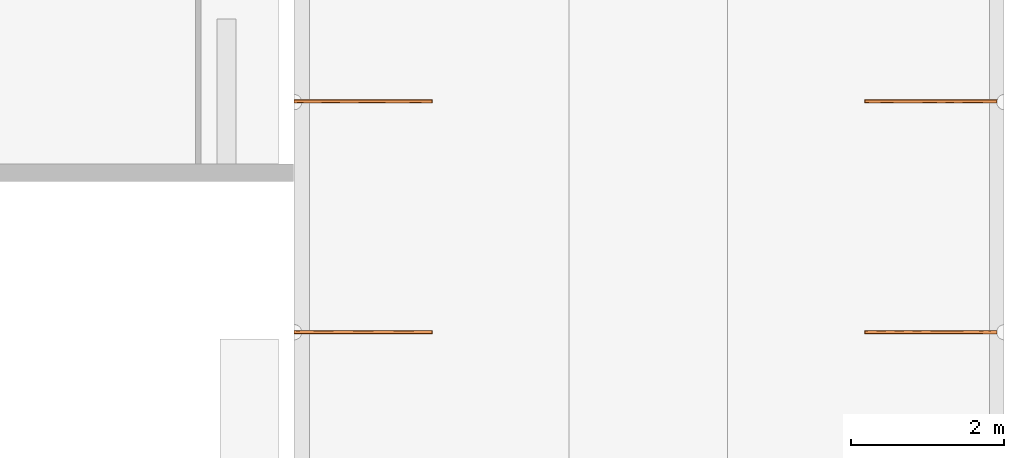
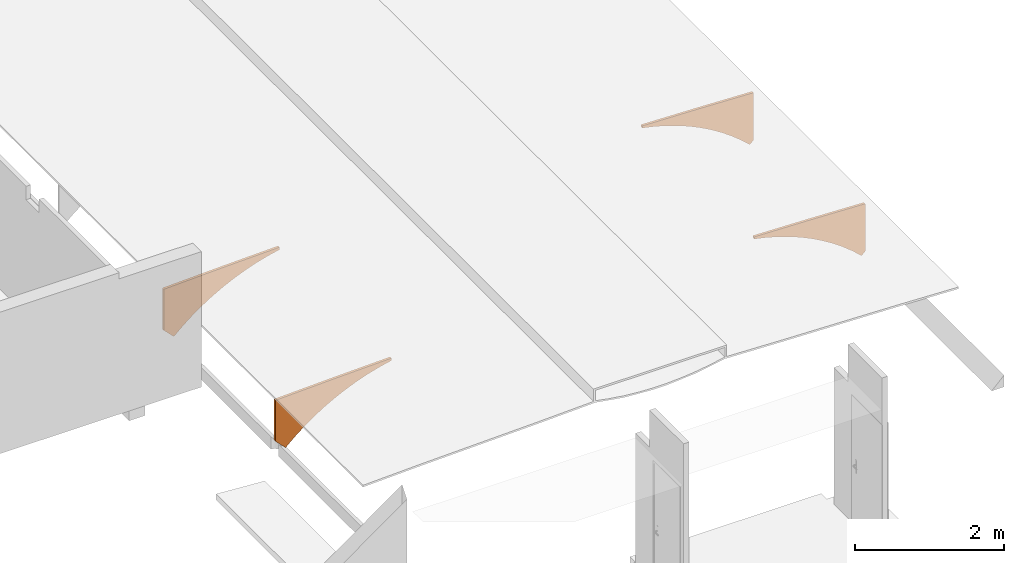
# One storey, part 29 of 32: 2 proxies.
"""IFC4 building model written with IfcOpenShell, lengths in metres."""

import ifcopenshell
import ifcopenshell.guid

model = None  # the IFC model being written
_history = None  # IfcOwnerHistory: only IFC2X3 demands one
_inside = {}  # id of a spatial element -> (the spatial element, [elements in it])
_under = {}  # id of a project, library or spatial element -> (it, [spatial elements below it])
_declared = {}  # id of a project -> (the project, [libraries it declares])
_typed = {}  # id of a type object -> (the type object, [elements of that type])
_made_of = {}  # id of a material, layer set ... -> (it, [elements and type objects made of it])


def new_model(schema):
    """Start an empty IFC model of exactly this schema.

    Asked for "IFC4X3", IfcOpenShell would pick the latest addendum, in which some entities
    have other attributes; the version numbers below select the first issue.
    IFC2X3 requires an IfcOwnerHistory on every rooted entity: one is made here for all.
    """
    global model, _history
    if schema == "IFC4X3":
        model = ifcopenshell.file(schema_version=(4, 3, 0, 0))
    else:
        model = ifcopenshell.file(schema=schema)
    _inside.clear()
    _under.clear()
    _declared.clear()
    _typed.clear()
    _made_of.clear()
    _history = None
    if model.schema == "IFC2X3":
        org = make("IfcOrganization", Name="unknown")
        user = make(
            "IfcPersonAndOrganization",
            ThePerson=make("IfcPerson", FamilyName="unknown"),
            TheOrganization=org,
        )
        app = make(
            "IfcApplication",
            ApplicationDeveloper=org,
            Version="unknown",
            ApplicationFullName="unknown",
            ApplicationIdentifier="unknown",
        )
        _history = make(
            "IfcOwnerHistory",
            OwningUser=user,
            OwningApplication=app,
            ChangeAction="ADDED",
            CreationDate=0,
        )
    return model


def make(cls, **values):
    """One entity of the class cls with the attributes given. An attribute that is None is left unset."""
    return model.create_entity(
        cls, **{name: value for name, value in values.items() if value is not None}
    )


def entity(cls, *values):
    """Any entity or typed value of the class cls, its attributes in the order of the schema. None: left unset."""
    e = model.create_entity(cls)
    for i, value in enumerate(values):
        if value is not None:
            e[i] = value
    return e


def rooted(cls, **values):
    """An entity with a GlobalId (a new one), such as an element, a storey or a relation."""
    return make(cls, GlobalId=ifcopenshell.guid.new(), OwnerHistory=_history, **values)


def si_unit(unit_type, name, prefix=None):
    """IfcSIUnit, for example si_unit("LENGTHUNIT", "METRE", prefix="MILLI")."""
    return make("IfcSIUnit", UnitType=unit_type, Prefix=prefix, Name=name)


def converted_unit(unit_type, name, factor, base, dimensions=None, offset=None):
    """IfcConversionBasedUnit, such as the inch: factor (a typed value) times the base unit."""
    return make(
        "IfcConversionBasedUnit"
        if offset is None
        else "IfcConversionBasedUnitWithOffset",
        ConversionOffset=offset,
        Dimensions=None
        if dimensions is None
        else entity("IfcDimensionalExponents", *dimensions),
        UnitType=unit_type,
        Name=name,
        ConversionFactor=make(
            "IfcMeasureWithUnit", ValueComponent=factor, UnitComponent=base
        ),
    )


def derived_unit(unit_type, elements):
    """IfcDerivedUnit: a product of units, each with its exponent."""
    return make(
        "IfcDerivedUnit",
        Elements=[
            make("IfcDerivedUnitElement", Unit=unit, Exponent=power)
            for unit, power in elements
        ],
        UnitType=unit_type,
    )


def assignment(units):
    """IfcUnitAssignment: the units of a project."""
    return None if units is None else make("IfcUnitAssignment", Units=units)


def point(xyz):
    """IfcCartesianPoint."""
    return None if xyz is None else make("IfcCartesianPoint", Coordinates=xyz)


def direction(xyz):
    """IfcDirection."""
    return None if xyz is None else make("IfcDirection", DirectionRatios=xyz)


def frame(location, z_axis=None, x_axis=None):
    """IfcAxis2Placement3D, a coordinate frame: its origin and axes. An axis left out is left unset."""
    return make(
        "IfcAxis2Placement3D",
        Location=point(location),
        Axis=direction(z_axis),
        RefDirection=direction(x_axis),
    )


def origin():
    """The frame at (0, 0, 0) with its axes left unset."""
    return frame((0.0, 0.0, 0.0))


def place(relative_to, where):
    """IfcLocalPlacement: puts the frame where relative to a parent placement (None: the world)."""
    return make(
        "IfcLocalPlacement", PlacementRelTo=relative_to, RelativePlacement=where
    )


def context(
    kind, dimensions, precision=None, world=None, true_north=None, identifier=None
):
    """IfcGeometricRepresentationContext, for example the 3D "Model" context."""
    return make(
        "IfcGeometricRepresentationContext",
        ContextIdentifier=identifier,
        ContextType=kind,
        CoordinateSpaceDimension=dimensions,
        Precision=precision,
        WorldCoordinateSystem=world,
        TrueNorth=true_north,
    )


def subcontext(parent, identifier, kind, view, scale=None):
    """IfcGeometricRepresentationSubContext, for example "Body" below "Model"."""
    return make(
        "IfcGeometricRepresentationSubContext",
        ContextIdentifier=identifier,
        ContextType=kind,
        ParentContext=parent,
        TargetScale=scale,
        TargetView=view,
    )


def project(units=None, contexts=None):
    """IfcProject with its units and contexts."""
    return rooted(
        "IfcProject",
        Name="project",
        RepresentationContexts=contexts,
        UnitsInContext=assignment(units),
    )


def spatial(cls, under=None, at=None, **own):
    """A site, building, storey or space (cls), placed at a placement, below another one or the project."""
    s = rooted(cls, ObjectPlacement=at, **own)
    if under is not None:
        _under.setdefault(under.id(), (under, []))[1].append(s)
    return s


def point_list(points):
    """IfcCartesianPointList2D or 3D."""
    cls = (
        "IfcCartesianPointList2D" if len(points[0]) == 2 else "IfcCartesianPointList3D"
    )
    return make(cls, CoordList=points)


def polygons(points, faces, closed=None, point_numbers=None):
    """IfcPolygonalFaceSet: a face is its outer loop, then its inner loops; points numbered from 1."""
    made = []
    for loops in faces:
        if len(loops) == 1:
            made.append(make("IfcIndexedPolygonalFace", CoordIndex=loops[0]))
        else:
            made.append(
                make(
                    "IfcIndexedPolygonalFaceWithVoids",
                    CoordIndex=loops[0],
                    InnerCoordIndices=loops[1:],
                )
            )
    return make(
        "IfcPolygonalFaceSet",
        Coordinates=point_list(points),
        Closed=closed,
        Faces=made,
        PnIndex=point_numbers,
    )


def shape(context_of_items, identifier, shape_type, items):
    """IfcShapeRepresentation: the items that make up one representation, for example the "Body"."""
    return make(
        "IfcShapeRepresentation",
        ContextOfItems=context_of_items,
        RepresentationIdentifier=identifier,
        RepresentationType=shape_type,
        Items=items,
    )


def source(mapping_origin, context_of_items, identifier, shape_type, items):
    """IfcRepresentationMap: a shape defined once, which mapped items show again and again."""
    return make(
        "IfcRepresentationMap",
        MappingOrigin=mapping_origin,
        MappedRepresentation=shape(context_of_items, identifier, shape_type, items),
    )


def transform(
    local_origin,
    x_axis=None,
    y_axis=None,
    z_axis=None,
    scale=None,
    scale2=None,
    scale3=None,
    uniform=True,
):
    """IfcCartesianTransformationOperator3D, or its non-uniform kind. x_axis, y_axis, z_axis: its Axis1, 2, 3."""
    if uniform:
        return make(
            "IfcCartesianTransformationOperator3D",
            Axis1=direction(x_axis),
            Axis2=direction(y_axis),
            LocalOrigin=point(local_origin),
            Scale=scale,
            Axis3=direction(z_axis),
        )
    return make(
        "IfcCartesianTransformationOperator3DnonUniform",
        Axis1=direction(x_axis),
        Axis2=direction(y_axis),
        LocalOrigin=point(local_origin),
        Scale=scale,
        Axis3=direction(z_axis),
        Scale2=scale2,
        Scale3=scale3,
    )


def mapped(mapping_source, mapping_target):
    """IfcMappedItem: shows the shape of a source again, moved by a transform."""
    return make(
        "IfcMappedItem", MappingSource=mapping_source, MappingTarget=mapping_target
    )


def material(Name=None, Category=None):
    """IfcMaterial."""
    return make("IfcMaterial", Name=Name, Category=Category)


def made_of(thing, what):
    """Note that an element or type object is made of a material, layer set ...; save() writes the relation."""
    if what is not None:
        _made_of.setdefault(what.id(), (what, []))[1].append(thing)
    return thing


def type_object(cls, material=None, **own):
    """A type object (cls), such as IfcWallType, which elements share."""
    return made_of(rooted(cls, **own), material)


def type_shapes(of_type, sources):
    """Give a type object the sources (RepresentationMaps) that its elements show as mapped items."""
    of_type.RepresentationMaps = sources


def element(
    cls,
    number,
    at=None,
    inside=None,
    cuts=None,
    type_object=None,
    material=None,
    context=None,
    identifier="Body",
    shape_type=None,
    held_by="IfcProductDefinitionShape",
    body=None,
    shapes=None,
    **own,
):
    """One element of the class cls, such as IfcWall. Its Tag is "e" and its number.

    at: its placement. inside: the storey or other place that contains it. cuts: it is an
    opening in that element (IfcRelVoidsElement). A single representation is given by context,
    identifier, shape_type and body (its items); several are given by shapes. held_by: the class
    of the entity that holds the representations. save() writes the other relations.
    """
    e = rooted(cls, Tag="e%d" % number, ObjectPlacement=at, **own)
    if body is not None:
        shapes = [shape(context, identifier, shape_type, body)]
    if shapes is not None:
        e.Representation = make(held_by, Representations=shapes)
    if inside is not None:
        _inside.setdefault(inside.id(), (inside, []))[1].append(e)
    if cuts is not None:
        rooted(
            "IfcRelVoidsElement", RelatingBuildingElement=cuts, RelatedOpeningElement=e
        )
    if type_object is not None:
        _typed.setdefault(type_object.id(), (type_object, []))[1].append(e)
    return made_of(e, material)


def aggregate(whole, parts):
    """IfcRelAggregates: a whole, such as a stair, and the parts it consists of."""
    return rooted("IfcRelAggregates", RelatingObject=whole, RelatedObjects=parts)


def save(model, path):
    """Write the relations noted so far, then the file.

    IfcRelAggregates (storeys below a building ...), IfcRelContainedInSpatialStructure (elements
    in a storey), IfcRelDefinesByType, IfcRelAssociatesMaterial and IfcRelDeclares: one each for
    every whole, place, type object, material and project.
    """
    for whole, parts in _under.values():
        aggregate(whole, parts)
    for where, things in _inside.values():
        rooted(
            "IfcRelContainedInSpatialStructure",
            RelatedElements=things,
            RelatingStructure=where,
        )
    for kind, things in _typed.values():
        rooted("IfcRelDefinesByType", RelatedObjects=things, RelatingType=kind)
    for what, things in _made_of.values():
        rooted("IfcRelAssociatesMaterial", RelatedObjects=things, RelatingMaterial=what)
    for by, libraries in _declared.values():
        rooted("IfcRelDeclares", RelatingContext=by, RelatedDefinitions=libraries)
    model.write(path)


model = new_model("IFC4")

# Units and contexts
model_context = context("Model", 3, precision=1e-05, world=origin(), true_north=direction((6.12303176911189e-17, 1.0)))
body_context = subcontext(model_context, "Body", "Model", "MODEL_VIEW")
ifc_project = project(units=[si_unit("LENGTHUNIT", "METRE"), si_unit("AREAUNIT", "SQUARE_METRE"), si_unit("VOLUMEUNIT", "CUBIC_METRE"), converted_unit("PLANEANGLEUNIT", "DEGREE", entity("IfcRatioMeasure", 0.0174532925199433), si_unit("PLANEANGLEUNIT", "RADIAN"), dimensions=[0, 0, 0, 0, 0, 0, 0]), si_unit("MASSUNIT", "GRAM", prefix="KILO"), derived_unit("MASSDENSITYUNIT", [(si_unit("MASSUNIT", "GRAM", prefix="KILO"), 1), (si_unit("LENGTHUNIT", "METRE"), -3)]), derived_unit("MOMENTOFINERTIAUNIT", [(si_unit("LENGTHUNIT", "METRE"), 4)]), si_unit("TIMEUNIT", "SECOND"), si_unit("FREQUENCYUNIT", "HERTZ"), si_unit("THERMODYNAMICTEMPERATUREUNIT", "DEGREE_CELSIUS"), derived_unit("THERMALTRANSMITTANCEUNIT", [(si_unit("MASSUNIT", "GRAM", prefix="KILO"), 1), (si_unit("THERMODYNAMICTEMPERATUREUNIT", "KELVIN"), -1), (si_unit("TIMEUNIT", "SECOND"), -3)]), derived_unit("VOLUMETRICFLOWRATEUNIT", [(si_unit("LENGTHUNIT", "METRE"), 3), (si_unit("TIMEUNIT", "SECOND"), -1)]), si_unit("ELECTRICCURRENTUNIT", "AMPERE"), si_unit("ELECTRICVOLTAGEUNIT", "VOLT"), si_unit("POWERUNIT", "WATT"), si_unit("FORCEUNIT", "NEWTON", prefix="KILO"), si_unit("ILLUMINANCEUNIT", "LUX"), si_unit("LUMINOUSFLUXUNIT", "LUMEN"), si_unit("LUMINOUSINTENSITYUNIT", "CANDELA"), derived_unit("USERDEFINED", [(si_unit("MASSUNIT", "GRAM", prefix="KILO"), -1), (si_unit("LENGTHUNIT", "METRE"), -2), (si_unit("TIMEUNIT", "SECOND"), 3), (si_unit("LUMINOUSFLUXUNIT", "LUMEN"), 1)]), derived_unit("LINEARVELOCITYUNIT", [(si_unit("LENGTHUNIT", "METRE"), 1), (si_unit("TIMEUNIT", "SECOND"), -1)]), si_unit("PRESSUREUNIT", "PASCAL"), derived_unit("USERDEFINED", [(si_unit("LENGTHUNIT", "METRE"), -2), (si_unit("MASSUNIT", "GRAM", prefix="KILO"), 1), (si_unit("TIMEUNIT", "SECOND"), -2)]), derived_unit("LINEARFORCEUNIT", [(si_unit("MASSUNIT", "GRAM", prefix="KILO"), 1), (si_unit("LENGTHUNIT", "METRE"), 1), (si_unit("TIMEUNIT", "SECOND"), -2), (si_unit("LENGTHUNIT", "METRE"), -1)]), derived_unit("PLANARFORCEUNIT", [(si_unit("MASSUNIT", "GRAM", prefix="KILO"), 1), (si_unit("LENGTHUNIT", "METRE"), 1), (si_unit("TIMEUNIT", "SECOND"), -2), (si_unit("LENGTHUNIT", "METRE"), -2)])], contexts=[model_context])

# Site, building, storey
site_placement = place(None, origin())
site = spatial("IfcSite", under=ifc_project, at=site_placement, Name="Default", CompositionType="ELEMENT")
building_placement = place(site_placement, origin())
building = spatial("IfcBuilding", under=site, at=building_placement, Name="HOTEL CONSULAIRE BOULOGNE SUR MER", CompositionType="ELEMENT")
storey_placement = place(building_placement, frame((0.0, 0.0, -2.70343668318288)))
storey = spatial("IfcBuildingStorey", under=building, at=storey_placement, Name="SS1", CompositionType="ELEMENT", Elevation=-2.70343668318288)

# Proxies
ifc_material = material(Name="peinture rouge")
building_element_proxy_type_1 = type_object("IfcBuildingElementProxyType", Name="Décoration plafond:Décoration plafond", PredefinedType="NOTDEFINED", material=ifc_material)
shared_shape_1 = source(origin(), body_context, "Body", "Tessellation", [
    polygons([(1.79902536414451, 0.00159527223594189, 0.894584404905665), (0.9498955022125, 0.00159527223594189, 0.8688668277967), (0.100998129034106, 0.00159527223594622, 0.836434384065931), (0.0512957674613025, 0.00159527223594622, 0.834327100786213), (0.00159527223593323, 0.00159527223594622, 0.832196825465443), (0.00159527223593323, 0.00159527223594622, 0.1571968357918), (0.100996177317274, 0.00159527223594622, 0.0577959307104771), (0.157196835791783, 0.00159527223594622, 0.0015952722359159), (0.296419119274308, 0.00159527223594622, 0.127213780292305), (0.442521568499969, 0.00159527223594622, 0.244759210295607), (0.595036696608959, 0.00159527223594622, 0.353855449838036), (0.753476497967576, 0.00159527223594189, 0.454153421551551), (0.917334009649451, 0.00159527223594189, 0.545332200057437), (1.08608493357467, 0.00159527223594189, 0.627100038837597), (1.25918931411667, 0.00159527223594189, 0.69919530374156), (1.43609326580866, 0.00159527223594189, 0.761387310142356), (1.61623074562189, 0.00159527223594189, 0.813477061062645), (1.79902536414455, 0.00159527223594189, 0.855297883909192), (1.79902536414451, 0.0401348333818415, 0.894584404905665), (0.948251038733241, 0.0401348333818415, 0.868810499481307), (0.0977082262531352, 0.0401348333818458, 0.836295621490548), (0.0496518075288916, 0.0401348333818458, 0.834257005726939), (0.00159527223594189, 0.0401348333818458, 0.832196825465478), (1.44157854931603, 0.00159527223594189, 0.883758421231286), (1.37363820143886, 0.0401348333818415, 0.881697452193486), (1.16094462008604, 0.0401348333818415, 0.875253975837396), (0.525445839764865, 0.00159527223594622, 0.852650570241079), (0.522979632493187, 0.0401348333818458, 0.852553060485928), (0.310343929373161, 0.0401348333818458, 0.844424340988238), (1.19573702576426, 0.00159527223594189, 0.876312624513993), (0.735615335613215, 0.0401348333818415, 0.860681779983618), (0.737670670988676, 0.00159527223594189, 0.860758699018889), (1.62030195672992, 0.00159527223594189, 0.889171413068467), (1.58633178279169, 0.0401348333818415, 0.888140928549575), (0.313221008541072, 0.00159527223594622, 0.844542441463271), (0.00159527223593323, 0.0401348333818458, 0.1571968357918), (0.0977082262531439, 0.0401348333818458, 0.0610838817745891), (0.157196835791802, 0.0401348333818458, 0.00159527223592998), (0.296419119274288, 0.0401348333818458, 0.127213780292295), (0.442521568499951, 0.0401348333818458, 0.244759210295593), (0.595036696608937, 0.0401348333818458, 0.353855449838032), (0.753476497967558, 0.0401348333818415, 0.454153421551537), (0.917334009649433, 0.0401348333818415, 0.545332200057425), (1.08608493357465, 0.0401348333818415, 0.627100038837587), (1.25918931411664, 0.0401348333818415, 0.699195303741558), (1.43609326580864, 0.0401348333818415, 0.761387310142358), (1.61623074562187, 0.0401348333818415, 0.813477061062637), (1.79902536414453, 0.0401348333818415, 0.855297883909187)], [[[3, 4, 5, 6, 7, 8, 9, 10, 11, 12, 13, 14, 15, 16, 17, 18, 1, 33, 24, 30, 2, 32, 27, 35]], [[2, 26, 20]], [[20, 31, 32]], [[33, 19, 34]], [[27, 28, 35]], [[26, 2, 30]], [[24, 34, 25]], [[31, 27, 32]], [[34, 24, 33]], [[22, 23, 5]], [[21, 3, 29]], [[22, 4, 21]], [[4, 22, 5]], [[28, 29, 35]], [[21, 4, 3]], [[20, 32, 2]], [[27, 31, 28]], [[24, 25, 30]], [[30, 25, 26]], [[33, 1, 19]], [[29, 3, 35]], [[6, 5, 23, 36]], [[7, 6, 36, 37, 38, 8]], [[9, 8, 38, 39]], [[11, 10, 40, 41]], [[40, 10, 9, 39]], [[12, 11, 41, 42]], [[42, 43, 13, 12]], [[15, 14, 44, 45]], [[17, 16, 46, 47]], [[46, 16, 15, 45]], [[18, 17, 47, 48]], [[13, 43, 44, 14]], [[1, 18, 48, 19]], [[19, 48, 47, 46, 45, 44, 43, 42, 41, 40, 39, 38, 37, 36, 23, 22, 21, 29, 28, 31, 20, 26, 25, 34]]], closed=True),
    polygons([(9.10471567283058, 0.0401348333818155, 0.0194132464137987), (8.96355981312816, 0.0401348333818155, 0.146678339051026), (8.81534259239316, 0.0401348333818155, 0.265644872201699), (8.66055119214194, 0.0401348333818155, 0.37592180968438), (8.49969440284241, 0.0401348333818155, 0.477146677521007), (8.33330095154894, 0.0401348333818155, 0.568986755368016), (8.16191776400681, 0.0401348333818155, 0.651140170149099), (7.98610816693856, 0.0401348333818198, 0.723336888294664), (7.80645003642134, 0.0401348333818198, 0.785339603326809), (7.6235338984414, 0.0401348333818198, 0.836944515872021), (7.43796098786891, 0.0401348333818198, 0.877982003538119), (7.43796098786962, 0.0401348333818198, 0.913055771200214), (8.30114615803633, 0.0401348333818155, 0.88705653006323), (9.16409385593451, 0.0401348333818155, 0.854118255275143), (9.16409385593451, 0.0401348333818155, 0.0787914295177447), (7.4379609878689, 0.00159527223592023, 0.877982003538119), (7.43796098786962, 0.00159527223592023, 0.913055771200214), (9.10471567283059, 0.0015952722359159, 0.0194132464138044), (8.96355981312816, 0.0015952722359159, 0.146678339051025), (8.81534259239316, 0.0015952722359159, 0.265644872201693), (8.66055119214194, 0.0015952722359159, 0.37592180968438), (8.49969440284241, 0.0015952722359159, 0.477146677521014), (8.33330095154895, 0.0015952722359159, 0.568986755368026), (8.16191776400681, 0.0015952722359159, 0.6511401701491), (7.98610816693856, 0.00159527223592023, 0.723336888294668), (7.80645003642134, 0.00159527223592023, 0.785339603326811), (7.6235338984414, 0.00159527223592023, 0.83694451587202), (9.16118333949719, 0.0264660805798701, 0.0758809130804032), (9.16020680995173, 0.0125250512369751, 0.0749043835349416), (9.16035669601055, 0.00705195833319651, 0.0750542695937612), (9.16080590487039, 0.0015952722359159, 0.0755034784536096), (8.29950168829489, 0.0015952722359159, 0.887112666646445), (9.16080590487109, 0.00159527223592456, 0.85425694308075), (9.16035669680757, 0.00705194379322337, 0.854275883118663), (9.16020680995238, 0.0125250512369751, 0.85428220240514), (9.16118211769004, 0.0264573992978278, 0.854241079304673), (8.80674338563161, 0.0401348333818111, 0.867758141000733), (8.73015379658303, 0.00159527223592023, 0.870684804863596), (8.98213051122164, 0.00159527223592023, 0.861072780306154), (8.98541862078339, 0.0401348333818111, 0.860938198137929), (7.7954096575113, 0.00159527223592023, 0.902292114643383), (7.8695535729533, 0.0401348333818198, 0.900056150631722), (7.65375728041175, 0.0401348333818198, 0.906555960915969), (8.55394477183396, 0.0401348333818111, 0.877407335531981), (8.51482774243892, 0.00159527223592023, 0.878898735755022), (8.08534986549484, 0.0401348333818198, 0.893556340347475), (8.04745567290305, 0.00159527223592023, 0.894702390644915), (7.61668532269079, 0.00159527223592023, 0.907673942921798), (9.16409385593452, 0.0401348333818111, 0.504947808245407), (9.16020680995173, 0.0125250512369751, 0.464593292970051), (9.16020680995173, 0.0125250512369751, 0.679696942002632), (9.16020680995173, 0.0125250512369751, 0.249489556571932), (9.16409385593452, 0.0401348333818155, 0.291869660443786), (9.16409385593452, 0.0401348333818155, 0.1660841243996), (9.16409385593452, 0.0401348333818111, 0.679533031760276), (9.16136501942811, 0.0277007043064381, 0.228976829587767), (9.16020680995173, 0.0125250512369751, 0.357041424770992), (9.16409385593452, 0.0401348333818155, 0.398408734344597), (9.16132051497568, 0.0274079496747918, 0.345139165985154), (9.16020680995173, 0.0125250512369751, 0.57214516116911), (9.16118247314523, 0.0264599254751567, 0.625921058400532), (9.16113299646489, 0.0261036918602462, 0.740080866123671), (9.16105441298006, 0.0255174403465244, 0.518369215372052), (9.16080590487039, 0.0015952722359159, 0.50508649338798), (9.16020680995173, 0.0125250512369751, 0.659437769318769), (9.16020680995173, 0.0125250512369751, 0.562015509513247), (9.16080590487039, 0.0015952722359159, 0.290294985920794), (9.16080590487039, 0.0015952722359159, 0.39769069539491), (9.16080590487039, 0.0015952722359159, 0.679671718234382), (9.16080590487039, 0.0015952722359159, 0.451388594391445), (9.16080590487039, 0.0015952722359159, 0.182899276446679), (9.16020680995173, 0.0125250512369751, 0.303265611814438), (9.16080590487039, 0.0015952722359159, 0.592379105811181), (9.16020680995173, 0.0125250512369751, 0.162197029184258), (9.16020680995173, 0.0125250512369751, 0.756860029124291), (9.16080590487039, 0.0015952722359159, 0.766964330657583), (9.16080590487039, 0.0015952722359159, 0.810610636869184), (9.16080590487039, 0.0015952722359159, 0.119149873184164), (9.16020680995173, 0.0125250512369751, 0.810635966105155), (9.16020680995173, 0.0125250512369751, 0.1185507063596), (9.16035664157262, 0.00705295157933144, 0.788787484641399), (9.16035542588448, 0.00707517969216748, 0.140373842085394), (9.16020680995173, 0.0125250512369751, 0.410817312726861), (9.16080590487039, 0.0015952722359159, 0.343992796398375), (9.16037232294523, 0.00677394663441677, 0.746632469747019), (9.16020680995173, 0.0125250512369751, 0.70814889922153), (9.16080590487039, 0.0015952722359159, 0.723318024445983), (9.16037877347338, 0.00666304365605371, 0.701494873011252), (9.16037624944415, 0.00670618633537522, 0.660064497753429), (9.16020680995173, 0.0125250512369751, 0.610726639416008), (9.16080590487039, 0.00159527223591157, 0.636025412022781), (9.16038047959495, 0.0066340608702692, 0.61420226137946), (9.16037257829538, 0.00676951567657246, 0.572031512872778), (9.16020680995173, 0.0125250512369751, 0.513304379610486), (9.1608059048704, 0.0015952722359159, 0.54873279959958), (9.16036311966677, 0.00693599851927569, 0.529201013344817), (9.16035485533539, 0.0070856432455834, 0.485301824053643), (9.16033783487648, 0.00740764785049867, 0.443034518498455), (9.16033852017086, 0.00739429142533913, 0.181729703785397), (9.16080590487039, 0.0015952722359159, 0.236597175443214), (9.16020680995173, 0.0125250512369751, 0.205843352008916), (9.16033776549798, 0.00740900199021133, 0.227666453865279), (9.16034964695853, 0.00718211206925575, 0.271663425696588), (9.1603811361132, 0.0066229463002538, 0.315149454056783), (9.16036229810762, 0.00695069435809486, 0.354826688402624), (9.16035583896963, 0.00706761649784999, 0.403591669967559)], [[[8, 9, 10, 11, 12, 43, 42, 46, 13, 44, 37, 40, 14, 55, 49, 58, 53, 54, 15, 1, 2, 3, 4, 5, 6, 7]], [[16, 17, 12, 11]], [[11, 10, 27, 16]], [[8, 7, 24, 25]], [[9, 8, 25, 26]], [[10, 9, 26, 27]], [[6, 23, 24, 7]], [[5, 4, 21, 22]], [[2, 1, 18, 19]], [[3, 2, 19, 20]], [[4, 3, 20, 21]], [[6, 5, 22, 23]], [[18, 1, 15, 28, 29, 30, 31]], [[36, 39, 35]], [[34, 39, 33]], [[37, 39, 40]], [[35, 39, 34]], [[37, 38, 39]], [[36, 14, 40]], [[36, 40, 39]], [[45, 38, 44]], [[41, 47, 42]], [[41, 42, 43]], [[12, 48, 43]], [[38, 37, 44]], [[13, 32, 45]], [[13, 45, 44]], [[47, 32, 46]], [[32, 13, 46]], [[42, 47, 46]], [[48, 12, 17]], [[48, 41, 43]], [[18, 31, 78, 71, 100, 67, 84, 68, 70, 64, 95, 73, 91, 69, 87, 76, 77, 33, 39, 38, 45, 32, 47, 41, 48, 17, 16, 27, 26, 25, 24, 23, 22, 21, 20, 19]], [[59, 53, 58]], [[56, 29, 28]], [[56, 52, 101, 74, 80, 29]], [[62, 55, 14]], [[63, 49, 61]], [[54, 53, 56]], [[59, 63, 50]], [[55, 62, 61]], [[15, 54, 28]], [[35, 62, 36]], [[54, 56, 28]], [[63, 60, 66, 94, 50]], [[59, 50, 83, 57, 72, 52]], [[59, 58, 63]], [[59, 52, 56]], [[53, 59, 56]], [[51, 61, 62]], [[61, 51, 65, 90, 60]], [[55, 61, 49]], [[62, 35, 79, 75, 86, 51]], [[14, 36, 62]], [[60, 63, 61]], [[58, 49, 63]], [[74, 82, 80]], [[100, 71, 102]], [[94, 66, 96]], [[103, 72, 104]], [[81, 75, 79]], [[34, 33, 77]], [[78, 31, 30]], [[81, 77, 76]], [[99, 71, 82]], [[88, 69, 89]], [[70, 97, 64]], [[102, 52, 103]], [[90, 92, 93]], [[98, 70, 106]], [[98, 97, 70]], [[78, 30, 82]], [[72, 57, 104]], [[92, 73, 93]], [[82, 74, 99]], [[81, 76, 85]], [[87, 88, 85]], [[34, 81, 79]], [[79, 35, 34]], [[30, 29, 80]], [[77, 81, 34]], [[75, 81, 85]], [[80, 82, 30]], [[78, 82, 71]], [[65, 88, 89]], [[105, 57, 106]], [[105, 104, 57]], [[86, 85, 88]], [[86, 75, 85]], [[69, 88, 87]], [[85, 76, 87]], [[88, 65, 51, 86]], [[92, 90, 65]], [[92, 65, 89]], [[73, 92, 91]], [[91, 92, 89]], [[89, 69, 91]], [[93, 66, 60, 90]], [[50, 94, 97]], [[96, 66, 93]], [[95, 96, 93]], [[97, 96, 64]], [[93, 73, 95]], [[96, 95, 64]], [[96, 97, 94]], [[98, 50, 97]], [[98, 83, 50]], [[106, 83, 98]], [[101, 102, 99]], [[102, 71, 99]], [[52, 102, 101]], [[102, 103, 100]], [[99, 74, 101]], [[67, 100, 103]], [[67, 103, 104]], [[103, 52, 72]], [[104, 84, 67]], [[105, 84, 104]], [[105, 68, 84]], [[106, 70, 68]], [[83, 106, 57]], [[106, 68, 105]]], closed=True),
])
type_shapes(building_element_proxy_type_1, [shared_shape_1])
proxy_1_placement = place(storey_placement, frame((12.3647443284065, -21.147434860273, 0.357702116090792)))
element("IfcBuildingElementProxy", 1, at=proxy_1_placement, inside=storey, type_object=building_element_proxy_type_1, material=ifc_material, Name="Décoration plafond:Décoration plafond", ObjectType="Décoration plafond:Décoration plafond", PredefinedType="NOTDEFINED", context=body_context, shape_type="MappedRepresentation", body=[
    mapped(shared_shape_1, transform((0.0, 0.0, 0.0), scale=1.0)),
])
building_element_proxy_type_2 = type_object("IfcBuildingElementProxyType", Name="Décoration plafond1:Décoration plafond", PredefinedType="NOTDEFINED", material=ifc_material)
shared_shape_2 = source(origin(), body_context, "Body", "Tessellation", [
    polygons([(1.7990253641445, 0.00159527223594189, 0.894584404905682), (0.949384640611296, 0.00159527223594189, 0.868849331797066), (0.0999766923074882, 0.00159527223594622, 0.836391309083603), (0.0507850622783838, 0.00159527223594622, 0.834305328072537), (0.00159527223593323, 0.00159527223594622, 0.83219682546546), (0.00159527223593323, 0.00159527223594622, 0.1571968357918), (0.0999747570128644, 0.00159527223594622, 0.0588173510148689), (0.157196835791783, 0.00159527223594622, 0.0015952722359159), (0.296419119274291, 0.00159527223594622, 0.127213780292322), (0.442521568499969, 0.00159527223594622, 0.244759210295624), (0.595036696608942, 0.00159527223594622, 0.353855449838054), (0.753476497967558, 0.00159527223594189, 0.454153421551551), (0.917334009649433, 0.00159527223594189, 0.545332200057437), (1.08608493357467, 0.00159527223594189, 0.627100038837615), (1.25918931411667, 0.00159527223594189, 0.699195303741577), (1.43609326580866, 0.00159527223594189, 0.761387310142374), (1.61623074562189, 0.00159527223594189, 0.813477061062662), (1.79902536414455, 0.00159527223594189, 0.855297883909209), (1.7990253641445, 0.0401348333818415, 0.894584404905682), (0.949121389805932, 0.0401348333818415, 0.868840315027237), (0.0994484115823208, 0.0401348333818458, 0.836369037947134), (0.0505218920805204, 0.0401348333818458, 0.834294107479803), (0.00159527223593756, 0.0401348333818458, 0.832196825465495), (1.44157857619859, 0.00159527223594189, 0.883757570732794), (1.37407337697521, 0.0401348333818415, 0.88171235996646), (1.16159738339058, 0.0401348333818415, 0.875276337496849), (0.524679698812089, 0.00159527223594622, 0.852620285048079), (0.524284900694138, 0.0401348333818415, 0.852604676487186), (0.31186665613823, 0.0401348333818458, 0.84448685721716), (1.19548160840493, 0.00159527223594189, 0.87630345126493), (0.736703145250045, 0.0401348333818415, 0.860722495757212), (0.737032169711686, 0.00159527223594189, 0.860734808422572), (1.6203019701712, 0.00159527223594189, 0.88917098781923), (1.58654937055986, 0.0401348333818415, 0.888148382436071), (0.312327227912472, 0.00159527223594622, 0.844505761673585), (0.00159527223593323, 0.0401348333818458, 0.1571968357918), (0.0994484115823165, 0.0401348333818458, 0.0593436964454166), (0.157196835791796, 0.0401348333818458, 0.00159527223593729), (0.29641911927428, 0.0401348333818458, 0.1272137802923), (0.442521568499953, 0.0401348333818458, 0.244759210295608), (0.595036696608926, 0.0401348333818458, 0.353855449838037), (0.753476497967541, 0.0401348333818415, 0.454153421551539), (0.917334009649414, 0.0401348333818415, 0.545332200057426), (1.08608493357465, 0.0401348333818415, 0.627100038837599), (1.25918931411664, 0.0401348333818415, 0.69919530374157), (1.43609326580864, 0.0401348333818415, 0.76138731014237), (1.61623074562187, 0.0401348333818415, 0.813477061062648), (1.79902536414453, 0.0401348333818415, 0.855297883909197)], [[[3, 4, 5, 6, 7, 8, 9, 10, 11, 12, 13, 14, 15, 16, 17, 18, 1, 33, 24, 30, 2, 32, 27, 35]], [[2, 26, 20]], [[20, 31, 32]], [[33, 19, 34]], [[27, 28, 35]], [[30, 25, 26]], [[26, 2, 30]], [[31, 27, 32]], [[34, 24, 33]], [[22, 23, 5]], [[21, 3, 29]], [[22, 4, 21]], [[4, 22, 5]], [[24, 34, 25]], [[21, 4, 3]], [[20, 32, 2]], [[27, 31, 28]], [[24, 25, 30]], [[28, 29, 35]], [[33, 1, 19]], [[29, 3, 35]], [[6, 5, 23, 36]], [[7, 6, 36, 37, 38, 8]], [[9, 8, 38, 39]], [[11, 10, 40, 41]], [[40, 10, 9, 39]], [[12, 11, 41, 42]], [[42, 43, 13, 12]], [[15, 14, 44, 45]], [[17, 16, 46, 47]], [[46, 16, 15, 45]], [[18, 17, 47, 48]], [[13, 43, 44, 14]], [[1, 18, 48, 19]], [[19, 48, 47, 46, 45, 44, 43, 42, 41, 40, 39, 38, 37, 36, 23, 22, 21, 29, 28, 31, 20, 26, 25, 34]]], closed=True),
    polygons([(9.10471567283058, 0.0401348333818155, 0.019413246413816), (8.96355981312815, 0.0401348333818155, 0.146678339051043), (8.81534259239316, 0.0401348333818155, 0.265644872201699), (8.66055119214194, 0.0401348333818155, 0.375921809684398), (8.49969440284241, 0.0401348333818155, 0.477146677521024), (8.33330095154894, 0.0401348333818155, 0.568986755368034), (8.16191776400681, 0.0401348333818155, 0.651140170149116), (7.98610816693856, 0.0401348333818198, 0.723336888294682), (7.80645003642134, 0.0401348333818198, 0.785339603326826), (7.6235338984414, 0.0401348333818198, 0.836944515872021), (7.43796098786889, 0.0401348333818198, 0.877982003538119), (7.43796098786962, 0.0401348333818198, 0.913055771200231), (8.30027580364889, 0.0401348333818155, 0.887086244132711), (9.16235367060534, 0.0401348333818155, 0.854191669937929), (9.16235367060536, 0.0401348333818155, 0.0770512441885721), (7.4379609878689, 0.00159527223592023, 0.877982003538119), (7.43796098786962, 0.00159527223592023, 0.913055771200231), (9.10471567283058, 0.0015952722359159, 0.0194132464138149), (8.96355981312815, 0.0015952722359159, 0.146678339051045), (8.81534259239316, 0.0015952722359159, 0.265644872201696), (8.66055119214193, 0.0015952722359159, 0.375921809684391), (8.49969440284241, 0.0015952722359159, 0.477146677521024), (8.33330095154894, 0.0015952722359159, 0.568986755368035), (8.16191776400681, 0.0015952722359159, 0.651140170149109), (7.98610816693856, 0.00159527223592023, 0.723336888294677), (7.80645003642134, 0.00159527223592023, 0.785339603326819), (7.62353389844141, 0.00159527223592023, 0.836944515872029), (9.16074497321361, 0.0298856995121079, 0.0754425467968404), (9.16020680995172, 0.0195250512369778, 0.0749043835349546), (9.16061276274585, 0.0105236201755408, 0.0753103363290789), (9.1618273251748, 0.0015952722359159, 0.0765248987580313), (8.30001255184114, 0.0015952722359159, 0.887095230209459), (9.16182732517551, 0.00159527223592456, 0.854213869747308), (9.1606127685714, 0.0105235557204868, 0.854265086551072), (9.16020680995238, 0.0195250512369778, 0.854282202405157), (9.16074458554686, 0.0298819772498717, 0.854259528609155), (8.80500303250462, 0.0401348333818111, 0.867827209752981), (8.73091993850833, 0.00159527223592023, 0.870654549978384), (8.98315198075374, 0.00159527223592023, 0.861030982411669), (8.98367835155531, 0.0401348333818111, 0.861009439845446), (7.79540963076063, 0.00159527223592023, 0.902291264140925), (7.86911839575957, 0.0401348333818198, 0.900071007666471), (7.65353969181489, 0.0401348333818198, 0.906563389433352), (8.5526394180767, 0.0401348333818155, 0.877456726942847), (8.51546624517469, 0.00159527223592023, 0.878874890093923), (8.08469709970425, 0.0401348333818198, 0.89357862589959), (8.04771109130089, 0.0015952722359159, 0.894693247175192), (7.61668530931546, 0.00159527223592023, 0.907673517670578), (9.16235367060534, 0.0401348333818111, 0.505021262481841), (9.16020680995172, 0.0195250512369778, 0.464593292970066), (9.16020680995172, 0.0195250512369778, 0.659437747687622), (9.16235367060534, 0.0401348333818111, 0.679606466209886), (9.16020680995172, 0.0195250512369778, 0.249489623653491), (9.16235367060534, 0.0401348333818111, 0.291036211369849), (9.16235367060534, 0.0401348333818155, 0.164343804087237), (9.16020680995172, 0.0195250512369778, 0.766989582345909), (9.16020680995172, 0.0195250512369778, 0.162197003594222), (9.16235367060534, 0.0401348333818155, 0.766899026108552), (9.16073600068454, 0.0297991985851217, 0.205843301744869), (9.16074458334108, 0.0298819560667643, 0.723252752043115), (9.16020680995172, 0.0195250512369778, 0.357041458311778), (9.16235367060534, 0.0401348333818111, 0.398028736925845), (9.160795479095, 0.0303595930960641, 0.644688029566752), (9.16020680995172, 0.0195250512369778, 0.56201547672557), (9.16235367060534, 0.0401348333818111, 0.592313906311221), (9.16083344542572, 0.0307024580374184, 0.548667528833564), (9.160802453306, 0.0304233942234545, 0.47074956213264), (9.16069107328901, 0.029354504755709, 0.283769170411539), (9.16068471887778, 0.0292899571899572, 0.392888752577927), (9.1618273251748, 0.0015952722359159, 0.505043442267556), (9.1618273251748, 0.0015952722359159, 0.290784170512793), (9.1618273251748, 0.0015952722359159, 0.679628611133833), (9.1618273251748, 0.0015952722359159, 0.16381743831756), (9.1618273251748, 0.00159527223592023, 0.766921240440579), (9.1618273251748, 0.0015952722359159, 0.592335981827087), (9.16061246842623, 0.0105268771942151, 0.723274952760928), (9.16060594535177, 0.0105993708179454, 0.205843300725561), (9.1618273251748, 0.0015952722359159, 0.397913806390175), (9.16059998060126, 0.0106661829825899, 0.273300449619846), (9.1618273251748, 0.0015952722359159, 0.344348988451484), (9.16063874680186, 0.0102406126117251, 0.371131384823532), (9.16070707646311, 0.0095349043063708, 0.444848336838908), (9.16047216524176, 0.0122448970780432, 0.513304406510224), (9.16061000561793, 0.0105541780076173, 0.578099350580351), (9.16063771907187, 0.0102516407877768, 0.657187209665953), (9.16058156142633, 0.0108757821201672, 0.140567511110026), (9.16064299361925, 0.010195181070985, 0.788769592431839), (9.1618273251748, 0.0015952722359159, 0.227300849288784)], [[[8, 9, 10, 11, 12, 43, 42, 46, 13, 44, 37, 40, 14, 58, 52, 65, 49, 62, 54, 55, 15, 1, 2, 3, 4, 5, 6, 7]], [[16, 17, 12, 11]], [[11, 10, 27, 16]], [[8, 7, 24, 25]], [[9, 8, 25, 26]], [[10, 9, 26, 27]], [[6, 23, 24, 7]], [[5, 4, 21, 22]], [[2, 1, 18, 19]], [[3, 2, 19, 20]], [[4, 3, 20, 21]], [[6, 5, 22, 23]], [[18, 1, 15, 28, 29, 30, 31]], [[39, 34, 35]], [[34, 39, 33]], [[37, 39, 40]], [[37, 38, 39]], [[35, 36, 40]], [[36, 14, 40]], [[40, 39, 35]], [[13, 32, 45]], [[41, 47, 42]], [[41, 42, 43]], [[12, 48, 43]], [[38, 37, 44]], [[45, 38, 44]], [[13, 45, 44]], [[47, 32, 46]], [[32, 13, 46]], [[42, 47, 46]], [[48, 12, 17]], [[48, 41, 43]], [[18, 31, 73, 88, 71, 80, 78, 70, 75, 72, 74, 33, 39, 38, 45, 32, 47, 41, 48, 17, 16, 27, 26, 25, 24, 23, 22, 21, 20, 19]], [[57, 59, 53]], [[15, 55, 28]], [[50, 67, 66]], [[60, 51, 63]], [[67, 50, 69]], [[36, 35, 56, 51, 60]], [[57, 29, 28]], [[63, 66, 65]], [[59, 68, 53]], [[58, 14, 36, 60, 52]], [[28, 59, 57]], [[59, 55, 54]], [[55, 59, 28]], [[52, 60, 63]], [[54, 68, 59]], [[49, 65, 66]], [[68, 54, 69]], [[65, 52, 63]], [[64, 50, 66]], [[63, 51, 64]], [[67, 49, 66]], [[64, 66, 63]], [[67, 62, 49]], [[62, 67, 69]], [[68, 61, 53]], [[69, 61, 68]], [[54, 62, 69]], [[61, 69, 50]], [[76, 74, 72]], [[70, 83, 84]], [[87, 74, 76]], [[77, 79, 88]], [[77, 73, 86]], [[50, 83, 82]], [[76, 56, 87]], [[82, 78, 81]], [[53, 77, 57]], [[78, 80, 81]], [[83, 64, 84]], [[86, 73, 31]], [[87, 34, 33]], [[87, 56, 35]], [[86, 30, 29]], [[76, 51, 56]], [[76, 72, 85]], [[51, 76, 85]], [[57, 77, 86]], [[79, 80, 71, 88]], [[79, 77, 53]], [[82, 81, 50]], [[79, 53, 61]], [[61, 50, 81]], [[79, 81, 80]], [[61, 81, 79]], [[82, 70, 78]], [[64, 83, 50]], [[83, 70, 82]], [[75, 70, 84]], [[72, 75, 85]], [[84, 64, 51]], [[85, 84, 51]], [[84, 85, 75]], [[57, 86, 29]], [[31, 30, 86]], [[74, 87, 33]], [[35, 34, 87]], [[88, 73, 77]]], closed=True),
])
type_shapes(building_element_proxy_type_2, [shared_shape_2])
proxy_2_placement = place(storey_placement, frame((12.3647443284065, -24.154434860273, 0.357702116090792)))
element("IfcBuildingElementProxy", 2, at=proxy_2_placement, inside=storey, type_object=building_element_proxy_type_2, material=ifc_material, Name="Décoration plafond1:Décoration plafond", ObjectType="Décoration plafond1:Décoration plafond", PredefinedType="NOTDEFINED", context=body_context, shape_type="MappedRepresentation", body=[
    mapped(shared_shape_2, transform((0.0, 0.0, 0.0), scale=1.0)),
])

save(model, "model.ifc")
